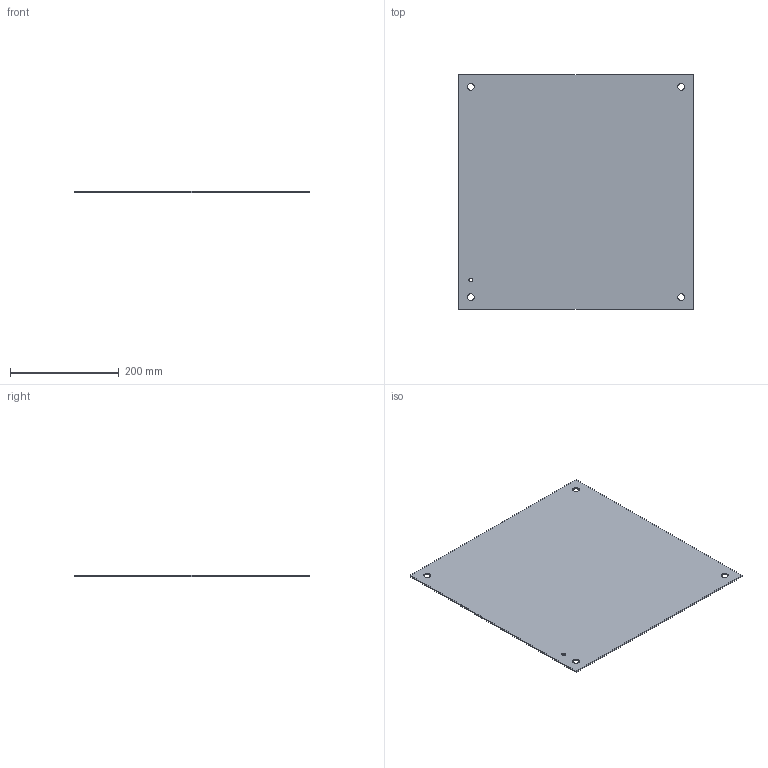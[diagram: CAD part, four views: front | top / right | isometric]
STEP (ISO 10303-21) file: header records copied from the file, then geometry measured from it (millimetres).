
FILE_DESCRIPTION((''),'1');
FILE_NAME('9','2001-04-18T',('jlue'),(''),'PRO/ENGINEER BY PARAMETRIC TECHNOLOGY CORPORATION, 9846','PRO/ENGINEER BY PARAMETRIC TECHNOLOGY CORPORATION, 9846','');
FILE_SCHEMA(('CONFIG_CONTROL_DESIGN'));
Length unit declared in the file: inch
Products named in the file (1): 9
Bounding box: 431.8 x 431.8 x 2.66 mm (x, y, z)
Surface area: 376881.9 mm2 (no closed solid volume)
Topology: 0 solids, 0 shells, 16 faces, 89 edges, 94 vertices
Faces by surface type: cylinder 10, plane 6
Entity records: 507 total; most frequent: DIRECTION 99, COMPOSITE_CURVE_SEGMENT 84, CARTESIAN_POINT 63, TRIMMED_CURVE 47, AXIS2_PLACEMENT_3D 36, VECTOR 27, LINE 27, CIRCLE 20
